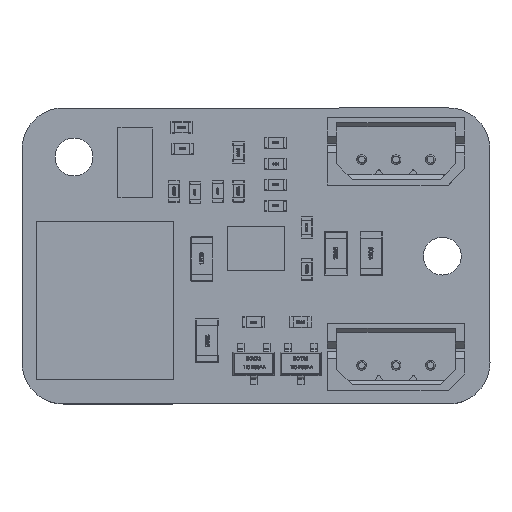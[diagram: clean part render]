
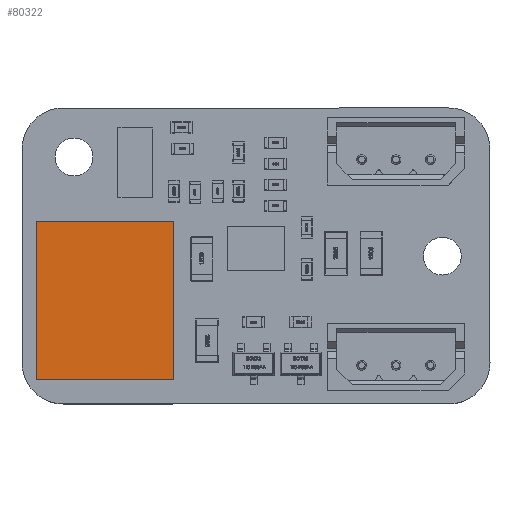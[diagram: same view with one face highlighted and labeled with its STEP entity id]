
A CAD part, top view. The second image highlights one B-rep face of the part: STEP entity #80322.
In plain terms, the highlighted planar face has unit normal (0, 0, 1).
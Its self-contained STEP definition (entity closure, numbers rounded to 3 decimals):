
#80008 = VERTEX_POINT('',#80009);
#80009 = CARTESIAN_POINT('',(-5.,5.75,2.9));
#80016 = PLANE('',#80017);
#80017 = AXIS2_PLACEMENT_3D('',#80018,#80019,#80020);
#80018 = CARTESIAN_POINT('',(-5.,5.75,0.));
#80019 = DIRECTION('',(1.,0.,0.));
#80020 = DIRECTION('',(0.,-1.,0.));
#80028 = PLANE('',#80029);
#80029 = AXIS2_PLACEMENT_3D('',#80030,#80031,#80032);
#80030 = CARTESIAN_POINT('',(5.,5.75,0.));
#80031 = DIRECTION('',(0.,-1.,0.));
#80032 = DIRECTION('',(-1.,0.,0.));
#80040 = EDGE_CURVE('',#80008,#80041,#80043,.T.);
#80041 = VERTEX_POINT('',#80042);
#80042 = CARTESIAN_POINT('',(-5.,-5.75,2.9));
#80043 = SURFACE_CURVE('',#80044,(#80048,#80055),.PCURVE_S1.);
#80044 = LINE('',#80045,#80046);
#80045 = CARTESIAN_POINT('',(-5.,5.75,2.9));
#80046 = VECTOR('',#80047,1.);
#80047 = DIRECTION('',(0.,-1.,0.));
#80048 = PCURVE('',#80016,#80049);
#80049 = DEFINITIONAL_REPRESENTATION('',(#80050),#80054);
#80050 = LINE('',#80051,#80052);
#80051 = CARTESIAN_POINT('',(0.,-2.9));
#80052 = VECTOR('',#80053,1.);
#80053 = DIRECTION('',(1.,0.));
#80054 = ( GEOMETRIC_REPRESENTATION_CONTEXT(2) 
PARAMETRIC_REPRESENTATION_CONTEXT() REPRESENTATION_CONTEXT('2D SPACE',''
  ) );
#80055 = PCURVE('',#80056,#80061);
#80056 = PLANE('',#80057);
#80057 = AXIS2_PLACEMENT_3D('',#80058,#80059,#80060);
#80058 = CARTESIAN_POINT('',(-5.,5.75,2.9));
#80059 = DIRECTION('',(0.,0.,-1.));
#80060 = DIRECTION('',(-1.,0.,0.));
#80061 = DEFINITIONAL_REPRESENTATION('',(#80062),#80066);
#80062 = LINE('',#80063,#80064);
#80063 = CARTESIAN_POINT('',(0.,0.));
#80064 = VECTOR('',#80065,1.);
#80065 = DIRECTION('',(0.,-1.));
#80066 = ( GEOMETRIC_REPRESENTATION_CONTEXT(2) 
PARAMETRIC_REPRESENTATION_CONTEXT() REPRESENTATION_CONTEXT('2D SPACE',''
  ) );
#80084 = PLANE('',#80085);
#80085 = AXIS2_PLACEMENT_3D('',#80086,#80087,#80088);
#80086 = CARTESIAN_POINT('',(-5.,-5.75,0.));
#80087 = DIRECTION('',(0.,1.,0.));
#80088 = DIRECTION('',(1.,0.,0.));
#80126 = EDGE_CURVE('',#80041,#80127,#80129,.T.);
#80127 = VERTEX_POINT('',#80128);
#80128 = CARTESIAN_POINT('',(5.,-5.75,2.9));
#80129 = SURFACE_CURVE('',#80130,(#80134,#80141),.PCURVE_S1.);
#80130 = LINE('',#80131,#80132);
#80131 = CARTESIAN_POINT('',(-5.,-5.75,2.9));
#80132 = VECTOR('',#80133,1.);
#80133 = DIRECTION('',(1.,0.,0.));
#80134 = PCURVE('',#80084,#80135);
#80135 = DEFINITIONAL_REPRESENTATION('',(#80136),#80140);
#80136 = LINE('',#80137,#80138);
#80137 = CARTESIAN_POINT('',(0.,-2.9));
#80138 = VECTOR('',#80139,1.);
#80139 = DIRECTION('',(1.,0.));
#80140 = ( GEOMETRIC_REPRESENTATION_CONTEXT(2) 
PARAMETRIC_REPRESENTATION_CONTEXT() REPRESENTATION_CONTEXT('2D SPACE',''
  ) );
#80141 = PCURVE('',#80056,#80142);
#80142 = DEFINITIONAL_REPRESENTATION('',(#80143),#80147);
#80143 = LINE('',#80144,#80145);
#80144 = CARTESIAN_POINT('',(0.,-11.5));
#80145 = VECTOR('',#80146,1.);
#80146 = DIRECTION('',(-1.,0.));
#80147 = ( GEOMETRIC_REPRESENTATION_CONTEXT(2) 
PARAMETRIC_REPRESENTATION_CONTEXT() REPRESENTATION_CONTEXT('2D SPACE',''
  ) );
#80165 = PLANE('',#80166);
#80166 = AXIS2_PLACEMENT_3D('',#80167,#80168,#80169);
#80167 = CARTESIAN_POINT('',(5.,-5.75,0.));
#80168 = DIRECTION('',(-1.,0.,0.));
#80169 = DIRECTION('',(0.,1.,0.));
#80202 = EDGE_CURVE('',#80127,#80203,#80205,.T.);
#80203 = VERTEX_POINT('',#80204);
#80204 = CARTESIAN_POINT('',(5.,5.75,2.9));
#80205 = SURFACE_CURVE('',#80206,(#80210,#80217),.PCURVE_S1.);
#80206 = LINE('',#80207,#80208);
#80207 = CARTESIAN_POINT('',(5.,-5.75,2.9));
#80208 = VECTOR('',#80209,1.);
#80209 = DIRECTION('',(0.,1.,0.));
#80210 = PCURVE('',#80165,#80211);
#80211 = DEFINITIONAL_REPRESENTATION('',(#80212),#80216);
#80212 = LINE('',#80213,#80214);
#80213 = CARTESIAN_POINT('',(0.,-2.9));
#80214 = VECTOR('',#80215,1.);
#80215 = DIRECTION('',(1.,0.));
#80216 = ( GEOMETRIC_REPRESENTATION_CONTEXT(2) 
PARAMETRIC_REPRESENTATION_CONTEXT() REPRESENTATION_CONTEXT('2D SPACE',''
  ) );
#80217 = PCURVE('',#80056,#80218);
#80218 = DEFINITIONAL_REPRESENTATION('',(#80219),#80223);
#80219 = LINE('',#80220,#80221);
#80220 = CARTESIAN_POINT('',(-10.,-11.5));
#80221 = VECTOR('',#80222,1.);
#80222 = DIRECTION('',(0.,1.));
#80223 = ( GEOMETRIC_REPRESENTATION_CONTEXT(2) 
PARAMETRIC_REPRESENTATION_CONTEXT() REPRESENTATION_CONTEXT('2D SPACE',''
  ) );
#80273 = EDGE_CURVE('',#80203,#80008,#80274,.T.);
#80274 = SURFACE_CURVE('',#80275,(#80279,#80286),.PCURVE_S1.);
#80275 = LINE('',#80276,#80277);
#80276 = CARTESIAN_POINT('',(5.,5.75,2.9));
#80277 = VECTOR('',#80278,1.);
#80278 = DIRECTION('',(-1.,0.,0.));
#80279 = PCURVE('',#80028,#80280);
#80280 = DEFINITIONAL_REPRESENTATION('',(#80281),#80285);
#80281 = LINE('',#80282,#80283);
#80282 = CARTESIAN_POINT('',(0.,-2.9));
#80283 = VECTOR('',#80284,1.);
#80284 = DIRECTION('',(1.,0.));
#80285 = ( GEOMETRIC_REPRESENTATION_CONTEXT(2) 
PARAMETRIC_REPRESENTATION_CONTEXT() REPRESENTATION_CONTEXT('2D SPACE',''
  ) );
#80286 = PCURVE('',#80056,#80287);
#80287 = DEFINITIONAL_REPRESENTATION('',(#80288),#80292);
#80288 = LINE('',#80289,#80290);
#80289 = CARTESIAN_POINT('',(-10.,0.));
#80290 = VECTOR('',#80291,1.);
#80291 = DIRECTION('',(1.,0.));
#80292 = ( GEOMETRIC_REPRESENTATION_CONTEXT(2) 
PARAMETRIC_REPRESENTATION_CONTEXT() REPRESENTATION_CONTEXT('2D SPACE',''
  ) );
#80322 = ADVANCED_FACE('',(#80323),#80056,.F.);
#80323 = FACE_BOUND('',#80324,.T.);
#80324 = EDGE_LOOP('',(#80325,#80326,#80327,#80328));
#80325 = ORIENTED_EDGE('',*,*,#80040,.T.);
#80326 = ORIENTED_EDGE('',*,*,#80126,.T.);
#80327 = ORIENTED_EDGE('',*,*,#80202,.T.);
#80328 = ORIENTED_EDGE('',*,*,#80273,.T.);
